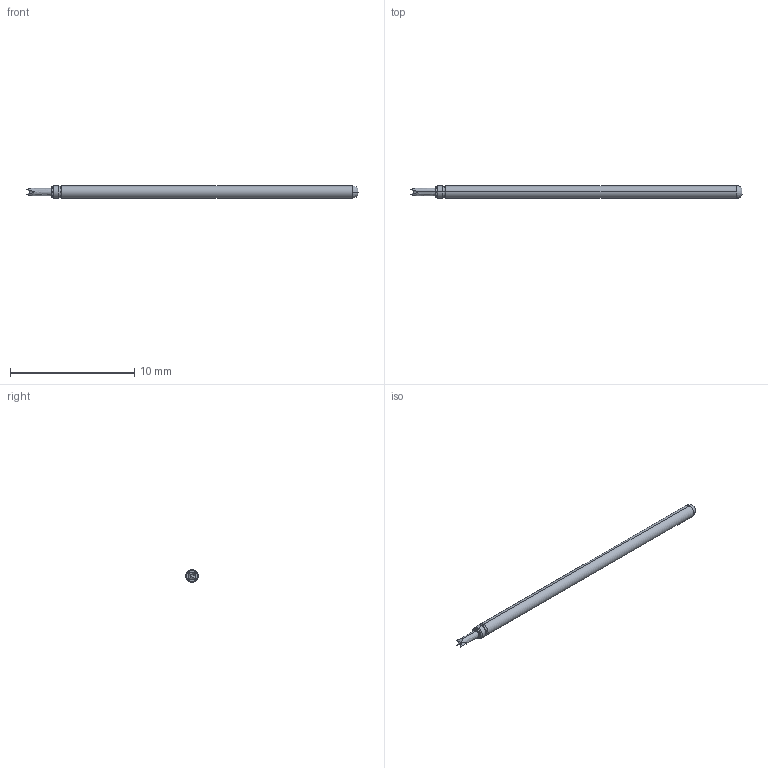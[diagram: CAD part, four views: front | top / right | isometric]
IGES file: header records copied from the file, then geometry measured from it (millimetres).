
Start section: SolidWorks IGES file using analytic representation for surfaces
Global section: file name: Z:\probe solid model mockups\Solidworks models\Parts\LFRE-1L24 FULL.IGS; native system: SolidWorks 2016; preprocessor: SolidWorks 2016; author: mlee; date: 180927.163659; units: inch
Bounding box: 26.67 x 1.02 x 1.02 mm (x, y, z)
Surface area: 83.4 mm2 (no closed solid volume)
Topology: 0 solids, 0 shells, 26 faces, 170 edges, 170 vertices
Faces by surface type: bspline 14, revolution 12
